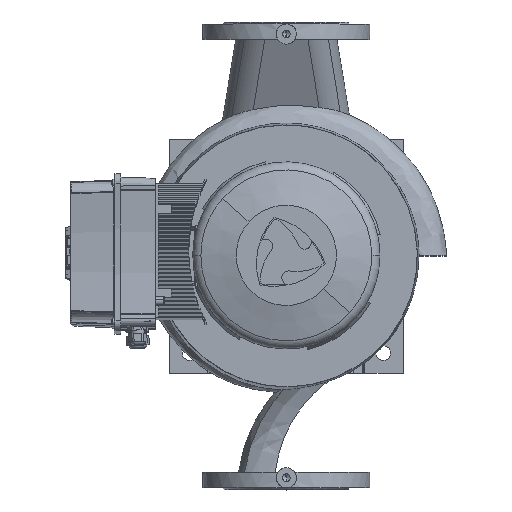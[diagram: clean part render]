
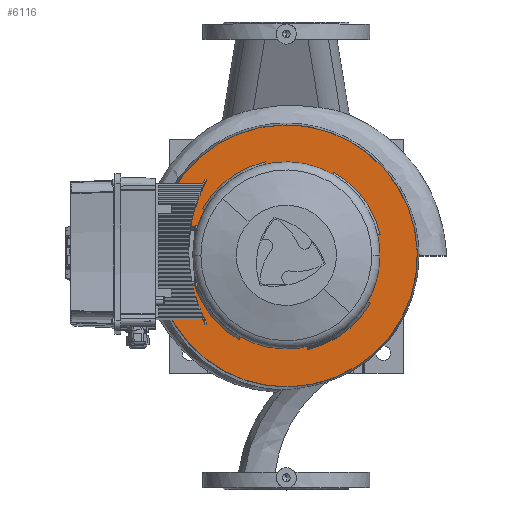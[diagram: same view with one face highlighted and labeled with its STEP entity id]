
A CAD part, top view. The second image highlights one B-rep face of the part: STEP entity #6116.
In plain terms, the highlighted planar face has unit normal (0, 0, 1) as drawn and (1, 0, 0) by its records, which use the part's own axes.
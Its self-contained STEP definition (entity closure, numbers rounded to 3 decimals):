
#6116=ADVANCED_FACE('',(#15514,#15515),#15516,.T.);
#6140=EDGE_CURVE('',#15555,#15556,#15557,.T.);
#6164=EDGE_CURVE('',#15599,#15600,#15601,.T.);
#6172=EDGE_CURVE('',#15609,#15612,#15613,.T.);
#6180=EDGE_CURVE('',#15621,#15624,#15625,.T.);
#6186=EDGE_CURVE('',#15628,#15600,#15633,.T.);
#6188=EDGE_CURVE('',#15635,#15612,#15636,.T.);
#6196=EDGE_CURVE('',#15647,#15643,#15648,.T.);
#6204=EDGE_CURVE('',#15658,#15654,#15659,.T.);
#6212=EDGE_CURVE('',#15665,#15668,#15669,.T.);
#6222=EDGE_CURVE('',#15679,#15609,#15682,.T.);
#6228=EDGE_CURVE('',#15687,#15621,#15690,.T.);
#6236=EDGE_CURVE('',#15698,#15693,#15701,.T.);
#6238=EDGE_CURVE('',#15624,#15643,#15703,.T.);
#6242=EDGE_CURVE('',#15693,#15654,#15707,.T.);
#6246=EDGE_CURVE('',#15668,#15599,#15711,.T.);
#6250=EDGE_CURVE('',#15635,#15687,#15715,.T.);
#6254=EDGE_CURVE('',#15647,#15698,#15719,.T.);
#6256=EDGE_CURVE('',#15628,#15679,#15721,.T.);
#6260=EDGE_CURVE('',#15556,#15555,#15725,.T.);
#6262=EDGE_CURVE('',#15658,#15665,#15727,.T.);
#15514=FACE_OUTER_BOUND('',#28423,.T.);
#15515=FACE_BOUND('',#28424,.T.);
#15516=PLANE('',#28425);
#15555=VERTEX_POINT('',#28466);
#15556=VERTEX_POINT('',#28467);
#15557=CIRCLE('',#28468,196.0);
#15599=VERTEX_POINT('',#28522);
#15600=VERTEX_POINT('',#28523);
#15601=CIRCLE('',#28524,132.799);
#15609=VERTEX_POINT('',#28544);
#15612=VERTEX_POINT('',#28557);
#15613=CIRCLE('',#28558,132.799);
#15621=VERTEX_POINT('',#28578);
#15624=VERTEX_POINT('',#28591);
#15625=CIRCLE('',#28592,132.799);
#15628=VERTEX_POINT('',#28596);
#15633=LINE('',#28613,#28614);
#15635=VERTEX_POINT('',#28617);
#15636=LINE('',#28618,#28619);
#15643=VERTEX_POINT('',#28639);
#15647=VERTEX_POINT('',#28653);
#15648=LINE('',#28654,#28655);
#15654=VERTEX_POINT('',#28674);
#15658=VERTEX_POINT('',#28688);
#15659=LINE('',#28689,#28690);
#15665=VERTEX_POINT('',#28709);
#15668=VERTEX_POINT('',#28722);
#15669=LINE('',#28723,#28724);
#15679=VERTEX_POINT('',#28749);
#15682=LINE('',#28762,#28763);
#15687=VERTEX_POINT('',#28771);
#15690=LINE('',#28784,#28785);
#15693=VERTEX_POINT('',#28789);
#15698=VERTEX_POINT('',#28806);
#15701=LINE('',#28819,#28820);
#15703=CIRCLE('',#28823,132.799);
#15707=CIRCLE('',#28829,132.799);
#15711=CIRCLE('',#28835,132.799);
#15715=CIRCLE('',#28841,144.0);
#15719=CIRCLE('',#28847,144.0);
#15721=CIRCLE('',#28850,144.0);
#15725=CIRCLE('',#28856,196.0);
#15727=CIRCLE('',#28859,144.0);
#28423=EDGE_LOOP('',(#53964,#53965));
#28424=EDGE_LOOP('',(#53966,#53967,#53968,#53969,#53970,#53971,#53972,#53973,#53974,#53975,#53976,#53977,#53978,#53979,#53980,#53981,#53982,#53983));
#28425=AXIS2_PLACEMENT_3D('',#53984,#53985,#53986);
#28466=CARTESIAN_POINT('',(20.0,196.0,0.0));
#28467=CARTESIAN_POINT('',(20.0,-196.0,0.));
#28468=AXIS2_PLACEMENT_3D('',#54086,#54087,#54088);
#28522=CARTESIAN_POINT('',(20.0,-132.799,0.));
#28523=CARTESIAN_POINT('',(20.0,-123.51,-48.794));
#28524=AXIS2_PLACEMENT_3D('',#54122,#54123,#54124);
#28544=CARTESIAN_POINT('',(20.0,-48.794,-123.51));
#28557=CARTESIAN_POINT('',(20.0,48.794,-123.51));
#28558=AXIS2_PLACEMENT_3D('',#54128,#54129,#54130);
#28578=CARTESIAN_POINT('',(20.0,123.51,-48.794));
#28591=CARTESIAN_POINT('',(20.0,132.799,0.));
#28592=AXIS2_PLACEMENT_3D('',#54134,#54135,#54136);
#28596=CARTESIAN_POINT('',(20.0,-134.395,-51.711));
#28613=CARTESIAN_POINT('',(20.0,-134.395,-51.711));
#28614=VECTOR('',#54138,1.0);
#28617=CARTESIAN_POINT('',(20.0,51.711,-134.395));
#28618=CARTESIAN_POINT('',(20.0,51.711,-134.395));
#28619=VECTOR('',#54139,1.0);
#28639=CARTESIAN_POINT('',(20.0,123.51,48.794));
#28653=CARTESIAN_POINT('',(20.0,134.395,51.711));
#28654=CARTESIAN_POINT('',(20.0,134.395,51.711));
#28655=VECTOR('',#54141,1.0);
#28674=CARTESIAN_POINT('',(20.0,-48.794,123.51));
#28688=CARTESIAN_POINT('',(20.0,-51.711,134.395));
#28689=CARTESIAN_POINT('',(20.0,-51.711,134.395));
#28690=VECTOR('',#54143,1.0);
#28709=CARTESIAN_POINT('',(20.0,-134.395,51.711));
#28722=CARTESIAN_POINT('',(20.0,-123.51,48.794));
#28723=CARTESIAN_POINT('',(20.0,-134.395,51.711));
#28724=VECTOR('',#54145,1.0);
#28749=CARTESIAN_POINT('',(20.0,-51.711,-134.395));
#28762=CARTESIAN_POINT('',(20.0,-51.711,-134.395));
#28763=VECTOR('',#54148,1.0);
#28771=CARTESIAN_POINT('',(20.0,134.395,-51.711));
#28784=CARTESIAN_POINT('',(20.0,134.395,-51.711));
#28785=VECTOR('',#54150,1.0);
#28789=CARTESIAN_POINT('',(20.0,48.794,123.51));
#28806=CARTESIAN_POINT('',(20.0,51.711,134.395));
#28819=CARTESIAN_POINT('',(20.0,51.711,134.395));
#28820=VECTOR('',#54152,1.0);
#28823=AXIS2_PLACEMENT_3D('',#54153,#54154,#54155);
#28829=AXIS2_PLACEMENT_3D('',#54159,#54160,#54161);
#28835=AXIS2_PLACEMENT_3D('',#54165,#54166,#54167);
#28841=AXIS2_PLACEMENT_3D('',#54171,#54172,#54173);
#28847=AXIS2_PLACEMENT_3D('',#54177,#54178,#54179);
#28850=AXIS2_PLACEMENT_3D('',#54180,#54181,#54182);
#28856=AXIS2_PLACEMENT_3D('',#54186,#54187,#54188);
#28859=AXIS2_PLACEMENT_3D('',#54189,#54190,#54191);
#53964=ORIENTED_EDGE('',*,*,#6140,.T.);
#53965=ORIENTED_EDGE('',*,*,#6260,.T.);
#53966=ORIENTED_EDGE('',*,*,#6262,.F.);
#53967=ORIENTED_EDGE('',*,*,#6204,.T.);
#53968=ORIENTED_EDGE('',*,*,#6242,.F.);
#53969=ORIENTED_EDGE('',*,*,#6236,.F.);
#53970=ORIENTED_EDGE('',*,*,#6254,.F.);
#53971=ORIENTED_EDGE('',*,*,#6196,.T.);
#53972=ORIENTED_EDGE('',*,*,#6238,.F.);
#53973=ORIENTED_EDGE('',*,*,#6180,.F.);
#53974=ORIENTED_EDGE('',*,*,#6228,.F.);
#53975=ORIENTED_EDGE('',*,*,#6250,.F.);
#53976=ORIENTED_EDGE('',*,*,#6188,.T.);
#53977=ORIENTED_EDGE('',*,*,#6172,.F.);
#53978=ORIENTED_EDGE('',*,*,#6222,.F.);
#53979=ORIENTED_EDGE('',*,*,#6256,.F.);
#53980=ORIENTED_EDGE('',*,*,#6186,.T.);
#53981=ORIENTED_EDGE('',*,*,#6164,.F.);
#53982=ORIENTED_EDGE('',*,*,#6246,.F.);
#53983=ORIENTED_EDGE('',*,*,#6212,.F.);
#53984=CARTESIAN_POINT('',(20.0,170.0,0.0));
#53985=DIRECTION('',(1.0,0.0,0.0));
#53986=DIRECTION('',(0.0,0.0,-1.0));
#54086=CARTESIAN_POINT('',(20.0,0.0,0.0));
#54087=DIRECTION('',(1.0,0.0,0.0));
#54088=DIRECTION('',(0.0,1.0,0.0));
#54122=CARTESIAN_POINT('',(20.0,0.0,0.0));
#54123=DIRECTION('',(1.0,0.0,-0.0));
#54124=DIRECTION('',(0.0,1.0,0.));
#54128=CARTESIAN_POINT('',(20.0,0.0,0.0));
#54129=DIRECTION('',(1.0,0.0,-0.0));
#54130=DIRECTION('',(0.0,1.0,0.));
#54134=CARTESIAN_POINT('',(20.0,0.0,0.0));
#54135=DIRECTION('',(1.0,0.0,-0.0));
#54136=DIRECTION('',(0.0,1.0,0.));
#54138=DIRECTION('',(0.,0.966,0.259));
#54139=DIRECTION('',(0.,-0.259,0.966));
#54141=DIRECTION('',(0.,-0.966,-0.259));
#54143=DIRECTION('',(0.,0.259,-0.966));
#54145=DIRECTION('',(0.,0.966,-0.259));
#54148=DIRECTION('',(0.,0.259,0.966));
#54150=DIRECTION('',(0.,-0.966,0.259));
#54152=DIRECTION('',(0.,-0.259,-0.966));
#54153=CARTESIAN_POINT('',(20.0,0.0,0.0));
#54154=DIRECTION('',(1.0,0.0,-0.0));
#54155=DIRECTION('',(0.0,1.0,0.));
#54159=CARTESIAN_POINT('',(20.0,0.0,0.0));
#54160=DIRECTION('',(1.0,0.0,-0.0));
#54161=DIRECTION('',(0.0,1.0,0.));
#54165=CARTESIAN_POINT('',(20.0,0.0,0.0));
#54166=DIRECTION('',(1.0,0.0,-0.0));
#54167=DIRECTION('',(0.0,1.0,0.));
#54171=CARTESIAN_POINT('',(20.0,0.0,0.0));
#54172=DIRECTION('',(1.0,0.0,0.0));
#54173=DIRECTION('',(0.0,1.0,0.0));
#54177=CARTESIAN_POINT('',(20.0,0.0,0.0));
#54178=DIRECTION('',(1.0,0.0,0.0));
#54179=DIRECTION('',(0.0,1.0,0.0));
#54180=CARTESIAN_POINT('',(20.0,0.0,0.0));
#54181=DIRECTION('',(1.0,0.0,0.0));
#54182=DIRECTION('',(0.0,1.0,0.0));
#54186=CARTESIAN_POINT('',(20.0,0.0,0.0));
#54187=DIRECTION('',(1.0,0.0,0.0));
#54188=DIRECTION('',(0.0,1.0,0.0));
#54189=CARTESIAN_POINT('',(20.0,0.0,0.0));
#54190=DIRECTION('',(1.0,0.0,0.0));
#54191=DIRECTION('',(0.0,1.0,0.0));
